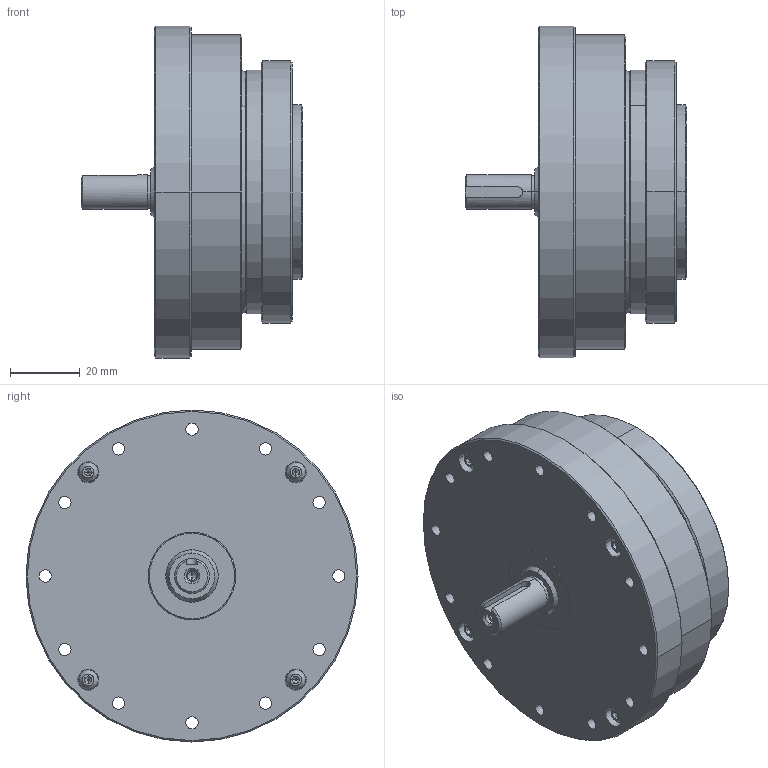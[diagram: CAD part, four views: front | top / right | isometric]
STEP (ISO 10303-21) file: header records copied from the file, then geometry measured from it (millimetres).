
FILE_DESCRIPTION (( 'STEP AP203' ), '1' );
FILE_NAME ('LHSG-20-XXX-C-IV.step', '2025-01-07T07:25:01', ( '' ), ( '' ), 'SwSTEP 2.0', 'SolidWorks 2023', '' );
FILE_SCHEMA (( 'CONFIG_CONTROL_DESIGN' ));
Length unit declared in the file: metre
Products named in the file (1): LHSG-20-XXX-C-IV
Bounding box: 63.5 x 95 x 95 mm (x, y, z)
Volume: 172292.3 mm3; surface area: 127894.2 mm2
Topology: 60 solids, 60 shells, 1674 faces, 4301 edges, 2641 vertices
Faces by surface type: cylinder 612, plane 479, bspline 333, cone 250
Entity records: 59674 total; most frequent: CARTESIAN_POINT 20238, ORIENTED_EDGE 8250, DIRECTION 8229, EDGE_CURVE 4125, AXIS2_PLACEMENT_3D 3406, VERTEX_POINT 2641, CIRCLE 2064, EDGE_LOOP 2050
